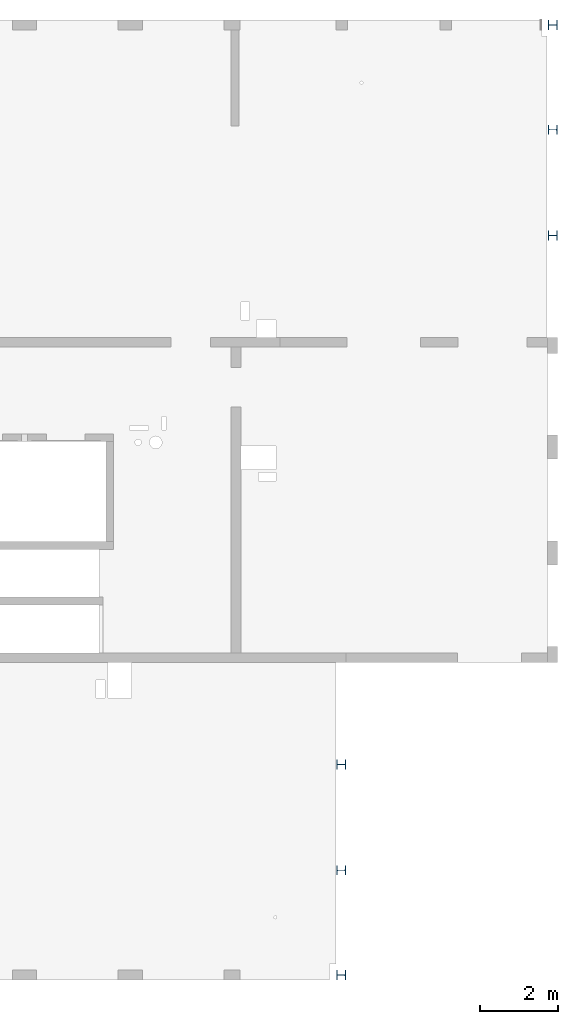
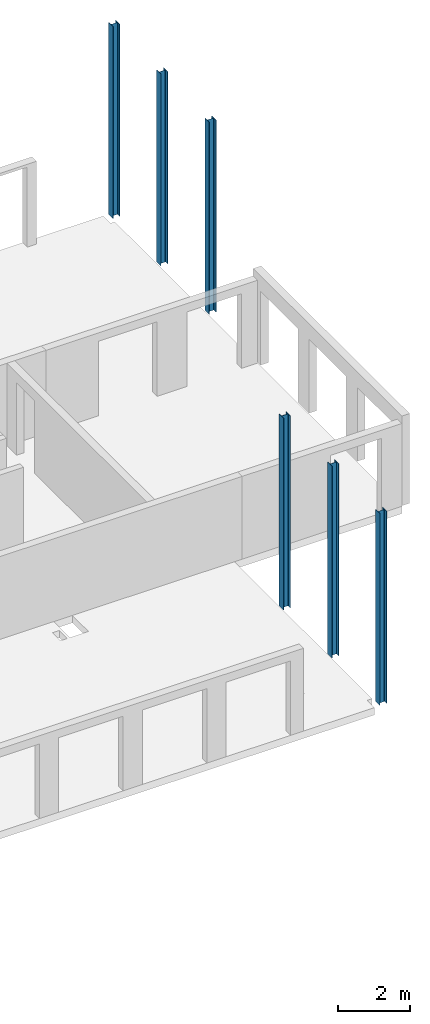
# One storey, part 4 of 10: 6 columns.
"""IFC2X3 building model written with IfcOpenShell, lengths in millimetres."""

import ifcopenshell
import ifcopenshell.guid

model = None  # the IFC model being written
_history = None  # IfcOwnerHistory: only IFC2X3 demands one
_inside = {}  # id of a spatial element -> (the spatial element, [elements in it])
_under = {}  # id of a project, library or spatial element -> (it, [spatial elements below it])
_declared = {}  # id of a project -> (the project, [libraries it declares])
_typed = {}  # id of a type object -> (the type object, [elements of that type])
_made_of = {}  # id of a material, layer set ... -> (it, [elements and type objects made of it])


def new_model(schema):
    """Start an empty IFC model of exactly this schema.

    Asked for "IFC4X3", IfcOpenShell would pick the latest addendum, in which some entities
    have other attributes; the version numbers below select the first issue.
    IFC2X3 requires an IfcOwnerHistory on every rooted entity: one is made here for all.
    """
    global model, _history
    if schema == "IFC4X3":
        model = ifcopenshell.file(schema_version=(4, 3, 0, 0))
    else:
        model = ifcopenshell.file(schema=schema)
    _inside.clear()
    _under.clear()
    _declared.clear()
    _typed.clear()
    _made_of.clear()
    _history = None
    if model.schema == "IFC2X3":
        org = make("IfcOrganization", Name="unknown")
        user = make(
            "IfcPersonAndOrganization",
            ThePerson=make("IfcPerson", FamilyName="unknown"),
            TheOrganization=org,
        )
        app = make(
            "IfcApplication",
            ApplicationDeveloper=org,
            Version="unknown",
            ApplicationFullName="unknown",
            ApplicationIdentifier="unknown",
        )
        _history = make(
            "IfcOwnerHistory",
            OwningUser=user,
            OwningApplication=app,
            ChangeAction="ADDED",
            CreationDate=0,
        )
    return model


def make(cls, **values):
    """One entity of the class cls with the attributes given. An attribute that is None is left unset."""
    return model.create_entity(
        cls, **{name: value for name, value in values.items() if value is not None}
    )


def entity(cls, *values):
    """Any entity or typed value of the class cls, its attributes in the order of the schema. None: left unset."""
    e = model.create_entity(cls)
    for i, value in enumerate(values):
        if value is not None:
            e[i] = value
    return e


def rooted(cls, **values):
    """An entity with a GlobalId (a new one), such as an element, a storey or a relation."""
    return make(cls, GlobalId=ifcopenshell.guid.new(), OwnerHistory=_history, **values)


def si_unit(unit_type, name, prefix=None):
    """IfcSIUnit, for example si_unit("LENGTHUNIT", "METRE", prefix="MILLI")."""
    return make("IfcSIUnit", UnitType=unit_type, Prefix=prefix, Name=name)


def converted_unit(unit_type, name, factor, base, dimensions=None, offset=None):
    """IfcConversionBasedUnit, such as the inch: factor (a typed value) times the base unit."""
    return make(
        "IfcConversionBasedUnit"
        if offset is None
        else "IfcConversionBasedUnitWithOffset",
        ConversionOffset=offset,
        Dimensions=None
        if dimensions is None
        else entity("IfcDimensionalExponents", *dimensions),
        UnitType=unit_type,
        Name=name,
        ConversionFactor=make(
            "IfcMeasureWithUnit", ValueComponent=factor, UnitComponent=base
        ),
    )


def derived_unit(unit_type, elements):
    """IfcDerivedUnit: a product of units, each with its exponent."""
    return make(
        "IfcDerivedUnit",
        Elements=[
            make("IfcDerivedUnitElement", Unit=unit, Exponent=power)
            for unit, power in elements
        ],
        UnitType=unit_type,
    )


def assignment(units):
    """IfcUnitAssignment: the units of a project."""
    return None if units is None else make("IfcUnitAssignment", Units=units)


def point(xyz):
    """IfcCartesianPoint."""
    return None if xyz is None else make("IfcCartesianPoint", Coordinates=xyz)


def direction(xyz):
    """IfcDirection."""
    return None if xyz is None else make("IfcDirection", DirectionRatios=xyz)


def frame(location, z_axis=None, x_axis=None):
    """IfcAxis2Placement3D, a coordinate frame: its origin and axes. An axis left out is left unset."""
    return make(
        "IfcAxis2Placement3D",
        Location=point(location),
        Axis=direction(z_axis),
        RefDirection=direction(x_axis),
    )


def frame_2d(location, x_axis=None):
    """IfcAxis2Placement2D, a coordinate frame in the plane: its origin and x axis."""
    return make(
        "IfcAxis2Placement2D", Location=point(location), RefDirection=direction(x_axis)
    )


def origin():
    """The frame at (0, 0, 0) with its axes left unset."""
    return frame((0.0, 0.0, 0.0))


def place(relative_to, where):
    """IfcLocalPlacement: puts the frame where relative to a parent placement (None: the world)."""
    return make(
        "IfcLocalPlacement", PlacementRelTo=relative_to, RelativePlacement=where
    )


def context(
    kind, dimensions, precision=None, world=None, true_north=None, identifier=None
):
    """IfcGeometricRepresentationContext, for example the 3D "Model" context."""
    return make(
        "IfcGeometricRepresentationContext",
        ContextIdentifier=identifier,
        ContextType=kind,
        CoordinateSpaceDimension=dimensions,
        Precision=precision,
        WorldCoordinateSystem=world,
        TrueNorth=true_north,
    )


def subcontext(parent, identifier, kind, view, scale=None):
    """IfcGeometricRepresentationSubContext, for example "Body" below "Model"."""
    return make(
        "IfcGeometricRepresentationSubContext",
        ContextIdentifier=identifier,
        ContextType=kind,
        ParentContext=parent,
        TargetScale=scale,
        TargetView=view,
    )


def project(units=None, contexts=None):
    """IfcProject with its units and contexts."""
    return rooted(
        "IfcProject",
        Name="project",
        RepresentationContexts=contexts,
        UnitsInContext=assignment(units),
    )


def spatial(cls, under=None, at=None, **own):
    """A site, building, storey or space (cls), placed at a placement, below another one or the project."""
    s = rooted(cls, ObjectPlacement=at, **own)
    if under is not None:
        _under.setdefault(under.id(), (under, []))[1].append(s)
    return s


def polyline(points):
    """IfcPolyline through the points."""
    return make("IfcPolyline", Points=[point(p) for p in points])


def circle_curve(where, radius):
    """IfcCircle in the frame where."""
    return make("IfcCircle", Position=where, Radius=radius)


def parameter(value):
    """IfcParameterValue: where a trimmed curve begins or ends, as a parameter of its basis curve."""
    return model.create_entity("IfcParameterValue", value)


def trimmed(basis, trim1, trim2, sense, master):
    """IfcTrimmedCurve: the piece of a basis curve between two trims."""
    return make(
        "IfcTrimmedCurve",
        BasisCurve=basis,
        Trim1=trim1,
        Trim2=trim2,
        SenseAgreement=sense,
        MasterRepresentation=master,
    )


def segment(curve, same_sense, transition):
    """IfcCompositeCurveSegment."""
    return make(
        "IfcCompositeCurveSegment",
        Transition=transition,
        SameSense=same_sense,
        ParentCurve=curve,
    )


def composite_curve(segments, self_intersect=None):
    """IfcCompositeCurve: segments joined end to end."""
    return make("IfcCompositeCurve", Segments=segments, SelfIntersect=self_intersect)


def outline(outer, holes=None, kind="AREA"):
    """IfcArbitraryClosedProfileDef: a profile drawn as a closed curve; with holes, ...WithVoids."""
    if holes is None:
        return make("IfcArbitraryClosedProfileDef", ProfileType=kind, OuterCurve=outer)
    return make(
        "IfcArbitraryProfileDefWithVoids",
        ProfileType=kind,
        OuterCurve=outer,
        InnerCurves=holes,
    )


def extrude(swept, where, along, depth):
    """IfcExtrudedAreaSolid: the profile swept, set in the frame where, extruded along a direction by depth."""
    return make(
        "IfcExtrudedAreaSolid",
        SweptArea=swept,
        Position=where,
        ExtrudedDirection=direction(along),
        Depth=depth,
    )


def shape(context_of_items, identifier, shape_type, items):
    """IfcShapeRepresentation: the items that make up one representation, for example the "Body"."""
    return make(
        "IfcShapeRepresentation",
        ContextOfItems=context_of_items,
        RepresentationIdentifier=identifier,
        RepresentationType=shape_type,
        Items=items,
    )


def source(mapping_origin, context_of_items, identifier, shape_type, items):
    """IfcRepresentationMap: a shape defined once, which mapped items show again and again."""
    return make(
        "IfcRepresentationMap",
        MappingOrigin=mapping_origin,
        MappedRepresentation=shape(context_of_items, identifier, shape_type, items),
    )


def transform(
    local_origin,
    x_axis=None,
    y_axis=None,
    z_axis=None,
    scale=None,
    scale2=None,
    scale3=None,
    uniform=True,
):
    """IfcCartesianTransformationOperator3D, or its non-uniform kind. x_axis, y_axis, z_axis: its Axis1, 2, 3."""
    if uniform:
        return make(
            "IfcCartesianTransformationOperator3D",
            Axis1=direction(x_axis),
            Axis2=direction(y_axis),
            LocalOrigin=point(local_origin),
            Scale=scale,
            Axis3=direction(z_axis),
        )
    return make(
        "IfcCartesianTransformationOperator3DnonUniform",
        Axis1=direction(x_axis),
        Axis2=direction(y_axis),
        LocalOrigin=point(local_origin),
        Scale=scale,
        Axis3=direction(z_axis),
        Scale2=scale2,
        Scale3=scale3,
    )


def mapped(mapping_source, mapping_target):
    """IfcMappedItem: shows the shape of a source again, moved by a transform."""
    return make(
        "IfcMappedItem", MappingSource=mapping_source, MappingTarget=mapping_target
    )


def material(Name=None, Category=None):
    """IfcMaterial."""
    return make("IfcMaterial", Name=Name, Category=Category)


def made_of(thing, what):
    """Note that an element or type object is made of a material, layer set ...; save() writes the relation."""
    if what is not None:
        _made_of.setdefault(what.id(), (what, []))[1].append(thing)
    return thing


def type_object(cls, material=None, **own):
    """A type object (cls), such as IfcWallType, which elements share."""
    return made_of(rooted(cls, **own), material)


def type_shapes(of_type, sources):
    """Give a type object the sources (RepresentationMaps) that its elements show as mapped items."""
    of_type.RepresentationMaps = sources


def element(
    cls,
    number,
    at=None,
    inside=None,
    cuts=None,
    type_object=None,
    material=None,
    context=None,
    identifier="Body",
    shape_type=None,
    held_by="IfcProductDefinitionShape",
    body=None,
    shapes=None,
    **own,
):
    """One element of the class cls, such as IfcWall. Its Tag is "e" and its number.

    at: its placement. inside: the storey or other place that contains it. cuts: it is an
    opening in that element (IfcRelVoidsElement). A single representation is given by context,
    identifier, shape_type and body (its items); several are given by shapes. held_by: the class
    of the entity that holds the representations. save() writes the other relations.
    """
    e = rooted(cls, Tag="e%d" % number, ObjectPlacement=at, **own)
    if body is not None:
        shapes = [shape(context, identifier, shape_type, body)]
    if shapes is not None:
        e.Representation = make(held_by, Representations=shapes)
    if inside is not None:
        _inside.setdefault(inside.id(), (inside, []))[1].append(e)
    if cuts is not None:
        rooted(
            "IfcRelVoidsElement", RelatingBuildingElement=cuts, RelatedOpeningElement=e
        )
    if type_object is not None:
        _typed.setdefault(type_object.id(), (type_object, []))[1].append(e)
    return made_of(e, material)


def aggregate(whole, parts):
    """IfcRelAggregates: a whole, such as a stair, and the parts it consists of."""
    return rooted("IfcRelAggregates", RelatingObject=whole, RelatedObjects=parts)


def save(model, path):
    """Write the relations noted so far, then the file.

    IfcRelAggregates (storeys below a building ...), IfcRelContainedInSpatialStructure (elements
    in a storey), IfcRelDefinesByType, IfcRelAssociatesMaterial and IfcRelDeclares: one each for
    every whole, place, type object, material and project.
    """
    for whole, parts in _under.values():
        aggregate(whole, parts)
    for where, things in _inside.values():
        rooted(
            "IfcRelContainedInSpatialStructure",
            RelatedElements=things,
            RelatingStructure=where,
        )
    for kind, things in _typed.values():
        rooted("IfcRelDefinesByType", RelatedObjects=things, RelatingType=kind)
    for what, things in _made_of.values():
        rooted("IfcRelAssociatesMaterial", RelatedObjects=things, RelatingMaterial=what)
    for by, libraries in _declared.values():
        rooted("IfcRelDeclares", RelatingContext=by, RelatedDefinitions=libraries)
    model.write(path)


model = new_model("IFC2X3")

# Units and contexts
model_context = context("Model", 3, precision=0.01, world=origin(), true_north=direction((6.12303176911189e-17, 1.0)))
body_context = subcontext(model_context, "Body", "Model", "MODEL_VIEW")
ifc_project = project(units=[si_unit("LENGTHUNIT", "METRE", prefix="MILLI"), si_unit("AREAUNIT", "SQUARE_METRE"), si_unit("VOLUMEUNIT", "CUBIC_METRE"), converted_unit("PLANEANGLEUNIT", "DEGREE", entity("IfcRatioMeasure", 0.0174532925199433), si_unit("PLANEANGLEUNIT", "RADIAN"), dimensions=[0, 0, 0, 0, 0, 0, 0]), si_unit("MASSUNIT", "GRAM", prefix="KILO"), derived_unit("MASSDENSITYUNIT", [(si_unit("MASSUNIT", "GRAM", prefix="KILO"), 1), (si_unit("LENGTHUNIT", "METRE"), -3)]), si_unit("TIMEUNIT", "SECOND"), si_unit("FREQUENCYUNIT", "HERTZ"), si_unit("THERMODYNAMICTEMPERATUREUNIT", "DEGREE_CELSIUS"), derived_unit("THERMALTRANSMITTANCEUNIT", [(si_unit("MASSUNIT", "GRAM", prefix="KILO"), 1), (si_unit("THERMODYNAMICTEMPERATUREUNIT", "KELVIN"), -1), (si_unit("TIMEUNIT", "SECOND"), -3)]), derived_unit("VOLUMETRICFLOWRATEUNIT", [(si_unit("LENGTHUNIT", "METRE"), 3), (si_unit("TIMEUNIT", "SECOND"), -1)]), si_unit("ELECTRICCURRENTUNIT", "AMPERE"), si_unit("ELECTRICVOLTAGEUNIT", "VOLT"), si_unit("POWERUNIT", "WATT"), si_unit("FORCEUNIT", "NEWTON", prefix="KILO"), si_unit("ILLUMINANCEUNIT", "LUX"), si_unit("LUMINOUSFLUXUNIT", "LUMEN"), si_unit("LUMINOUSINTENSITYUNIT", "CANDELA"), derived_unit("USERDEFINED", [(si_unit("MASSUNIT", "GRAM", prefix="KILO"), -1), (si_unit("LENGTHUNIT", "METRE"), -2), (si_unit("TIMEUNIT", "SECOND"), 3), (si_unit("LUMINOUSFLUXUNIT", "LUMEN"), 1)]), derived_unit("LINEARVELOCITYUNIT", [(si_unit("LENGTHUNIT", "METRE"), 1), (si_unit("TIMEUNIT", "SECOND"), -1)]), si_unit("PRESSUREUNIT", "PASCAL"), derived_unit("USERDEFINED", [(si_unit("LENGTHUNIT", "METRE"), -2), (si_unit("MASSUNIT", "GRAM", prefix="KILO"), 1), (si_unit("TIMEUNIT", "SECOND"), -2)])], contexts=[model_context])

# Site, building, storey
site_placement = place(None, origin())
site = spatial("IfcSite", under=ifc_project, at=site_placement, Name="Default", CompositionType="ELEMENT")
building_placement = place(site_placement, origin())
building = spatial("IfcBuilding", under=site, at=building_placement, Name="niet gebruiken", CompositionType="ELEMENT")
storey_placement = place(building_placement, frame((0.0, 0.0, 63090.0)))
storey = spatial("IfcBuildingStorey", under=building, at=storey_placement, Name="21 eenentwintigste verdieping", CompositionType="ELEMENT", Elevation=63090.0)

# Columns
ifc_material = material(Name="NLRS_h2_staal")
column_type = type_object("IfcColumnType", Name="kolom HEA 240", PredefinedType="COLUMN", material=ifc_material)
shared_shape = source(origin(), body_context, "Body", "SweptSolid", [
    extrude(outline(composite_curve([segment(polyline([(103.0, -120.0), (115.0, -120.0)]), True, "CONTINUOUS"), segment(polyline([(115.0, -120.0), (115.0, 120.0)]), True, "CONTINUOUS"), segment(polyline([(115.0, 120.0), (103.0, 120.0)]), True, "CONTINUOUS"), segment(polyline([(103.0, 120.0), (103.0, 24.7499999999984)]), True, "CONTINUOUS"), segment(trimmed(circle_curve(frame_2d((82.0, 24.7499999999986), x_axis=(1.0, 0.0)), 21.0), [parameter(270.0)], [parameter(0.0)], True, "PARAMETER"), False, "CONTINUOUS"), segment(polyline([(82.0, 3.74999999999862), (-82.0, 3.74999999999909)]), True, "CONTINUOUS"), segment(trimmed(circle_curve(frame_2d((-82.0, 24.7499999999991), x_axis=(0.0, -1.0)), 21.0), [parameter(270.0)], [parameter(0.0)], True, "PARAMETER"), False, "CONTINUOUS"), segment(polyline([(-103.0, 24.7499999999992), (-103.0, 120.0)]), True, "CONTINUOUS"), segment(polyline([(-103.0, 120.0), (-115.0, 120.0)]), True, "CONTINUOUS"), segment(polyline([(-115.0, 120.0), (-115.0, -120.0)]), True, "CONTINUOUS"), segment(polyline([(-115.0, -120.0), (-103.0, -120.0)]), True, "CONTINUOUS"), segment(polyline([(-103.0, -120.0), (-103.0, -24.7500000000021)]), True, "CONTINUOUS"), segment(trimmed(circle_curve(frame_2d((-82.0, -24.7500000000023), x_axis=(-1.0, 0.0)), 21.0), [parameter(270.0)], [parameter(0.0)], True, "PARAMETER"), False, "CONTINUOUS"), segment(polyline([(-82.0, -3.75000000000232), (82.0, -3.75000000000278)]), True, "CONTINUOUS"), segment(trimmed(circle_curve(frame_2d((82.0, -24.7500000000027), x_axis=(0.0, 1.0)), 21.0), [parameter(270.0)], [parameter(0.0)], True, "PARAMETER"), False, "CONTINUOUS"), segment(polyline([(103.0, -24.7500000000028), (103.0, -120.0)]), True, "CONTINUOUS")], self_intersect=False)), frame((0.0, 0.0, 63000.0), z_axis=(0.0, 0.0, 1.0), x_axis=(0.0, -1.0, 0.0)), (0.0, 0.0, 1.0), 6539.99999999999),
])
type_shapes(column_type, [shared_shape])
for number, where, z_axis, x_axis, name in (
    (1, (105280.0, 47756.0, -63090.0), (0.0, 0.0, 1.0), (0.0, -1.0, 0.0), "NLRS_28.11_SCO_TLB_stalen kolom HEA_gen:kolom HEA 240"),
    (2, (105280.0, 50456.0, -63090.0), (0.0, 0.0, 1.0), (0.0, -1.0, 0.0), "NLRS_28.11_SCO_TLB_stalen kolom HEA_gen:kolom HEA 240"),
    (3, (105280.0, 53131.0, -63090.0), (0.0, 0.0, 1.0), (0.0, -1.0, 0.0), "NLRS_28.11_SCO_TLB_stalen kolom HEA_gen:kolom HEA 240"),
    (4, (99880.0, 28881.0, -63090.0), (0.0, 0.0, 1.0), (0.0, -1.0, 0.0), "NLRS_28.11_SCO_TLB_stalen kolom HEA_gen:kolom HEA 240"),
    (5, (99880.0, 31556.0, -63090.0), (0.0, 0.0, 1.0), (0.0, -1.0, 0.0), "NLRS_28.11_SCO_TLB_stalen kolom HEA_gen:kolom HEA 240"),
    (6, (99880.0, 34256.0, -63090.0), (0.0, 0.0, 1.0), (0.0, -1.0, 0.0), "NLRS_28.11_SCO_TLB_stalen kolom HEA_gen:kolom HEA 240"),
):
    element("IfcColumn", number, at=place(storey_placement, frame(where, z_axis=z_axis, x_axis=x_axis)), inside=storey, type_object=column_type, material=ifc_material, Name=name, ObjectType="kolom HEA 240", context=body_context, shape_type="MappedRepresentation", body=[
        mapped(shared_shape, transform((0.0, 0.0, 0.0), scale=1.0)),
    ])

save(model, "model.ifc")
